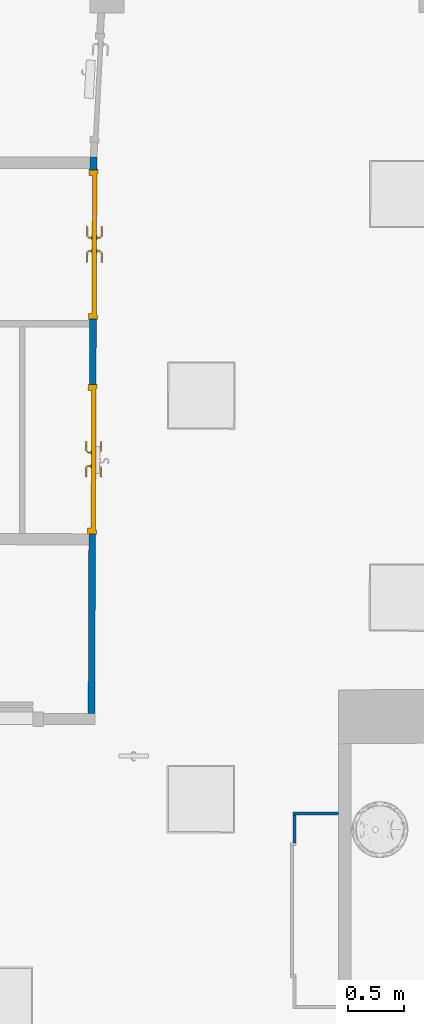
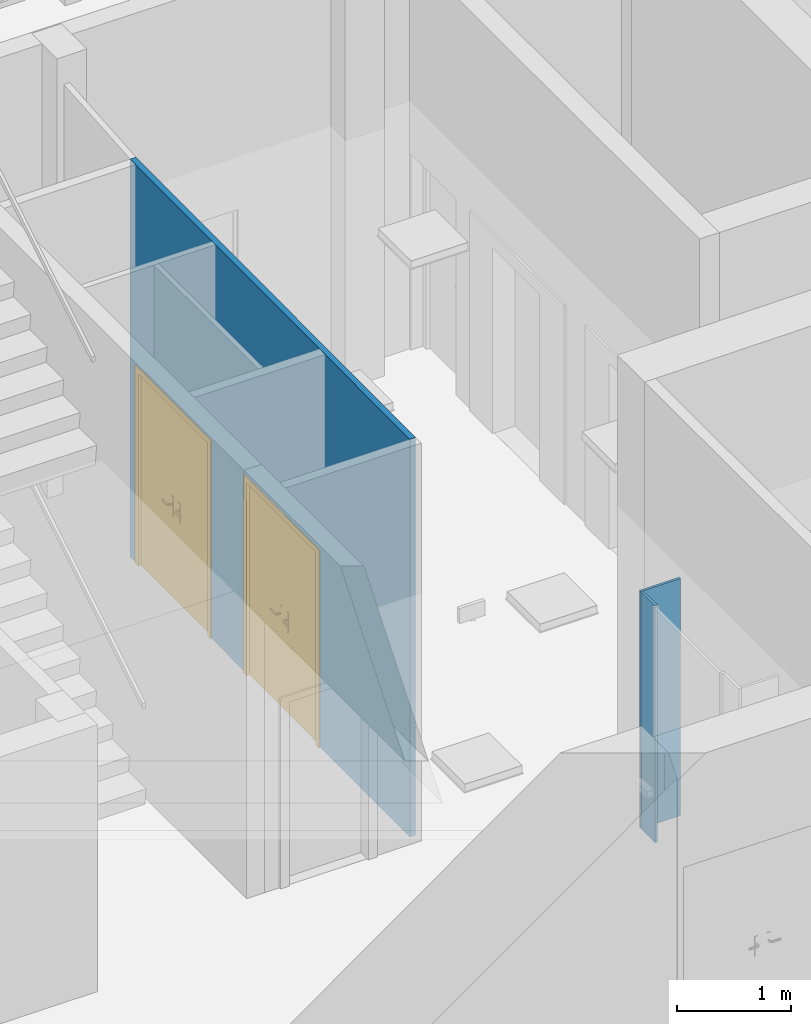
# One storey, part 29 of 128: 3 walls, 2 doors, 2 openings.
"""IFC2X3 building model written with IfcOpenShell, lengths in metres."""

from ifc_helpers import new_model, entity, si_unit, converted_unit, derived_unit, direction, frame, frame_2d, origin, place, context, subcontext, project, spatial, polyline, rectangle, outline, extrude, faceted_brep, source, transform, mapped, material, layer, layer_set, layer_usage, type_object, type_shapes, element, fill, save


model = new_model("IFC2X3")

# Units and contexts
model_context = context("Model", 3, precision=1e-05, world=origin(), true_north=direction((6.123031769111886e-17, 1.0)))
body_context = subcontext(model_context, "Body", "Model", "MODEL_VIEW")
ifc_project = project(units=[si_unit("LENGTHUNIT", "METRE"), si_unit("AREAUNIT", "SQUARE_METRE"), converted_unit("PLANEANGLEUNIT", "DEGREE", entity("IfcPlaneAngleMeasure", 0.017453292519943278), si_unit("PLANEANGLEUNIT", "RADIAN"), dimensions=[0, 0, 0, 0, 0, 0, 0]), derived_unit("THERMALTRANSMITTANCEUNIT", [(si_unit("MASSUNIT", "GRAM", prefix="KILO"), 1), (si_unit("THERMODYNAMICTEMPERATUREUNIT", "KELVIN"), -1), (si_unit("TIMEUNIT", "SECOND"), -3)])], contexts=[model_context])

# Site, building, storey
site_placement = place(None, origin())
site = spatial("IfcSite", under=ifc_project, at=site_placement, Name="Default", CompositionType="ELEMENT")
building_placement = place(site_placement, origin())
building = spatial("IfcBuilding", under=site, at=building_placement, CompositionType="ELEMENT")
storey_placement = place(building_placement, origin())
storey = spatial("IfcBuildingStorey", under=building, at=storey_placement, Name="00_RDC CAF", CompositionType="ELEMENT", Elevation=2.4982504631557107e-13)

# Wall, openings, doors
ifc_material_1 = material(Name="ARC - Cloison")
ifc_layer_1 = layer(ifc_material_1, 0.06)
ifc_layer_set_1 = layer_set([ifc_layer_1], Name="Mur de base:Cl_Platre_60mm")
ifc_layer_usage_1 = layer_usage(ifc_layer_set_1, "AXIS2", "POSITIVE", -0.03)
wall_type_1 = type_object("IfcWallType", Name="Mur de base:Cl_Platre_60mm", PredefinedType="STANDARD", material=ifc_layer_set_1)
wall_1_placement = place(storey_placement, frame((24.62582616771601, 130.1681249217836, 0.0), z_axis=(0.0, 0.0, 1.0), x_axis=(0.0038136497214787, 0.9999927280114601, 0.0)))
wall_1 = element("IfcWallStandardCase", 1, at=wall_1_placement, inside=storey, type_object=wall_type_1, material=ifc_layer_usage_1, Name="Mur de base:Cl_Platre_60mm", ObjectType="Mur de base:Cl_Platre_60mm", context=body_context, shape_type="SweptSolid", body=[
    extrude(outline(polyline([(0.00022882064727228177, -0.029999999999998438), (4.96021119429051, -0.030000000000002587), (4.95998237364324, 0.030000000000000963), (4.8599816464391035, 0.03000000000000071), (3.504971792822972, 0.030000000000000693), (3.444971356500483, 0.030000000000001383), (1.6004225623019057, 0.029999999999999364), (1.500422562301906, 0.030000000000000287), (0.0, 0.030000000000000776), (0.00022882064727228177, -0.029999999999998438)])), origin(), (0.0, 0.0, 1.0), 4.278),
])
opening_1_placement = place(wall_1_placement, frame((2.930422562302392, 0.029999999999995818, -0.009999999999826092)))
opening_1 = element("IfcOpeningElement", 2, at=opening_1_placement, cuts=wall_1, Name="P_Recouvrement_Double:P_Int_Double_Pleine_1260x2090mm:1", ObjectType="Opening", context=body_context, shape_type="SweptSolid", body=[
    extrude(rectangle(XDim=2.125000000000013, YDim=1.3300000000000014, at=frame_2d((1.0625000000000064, 0.6650000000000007), x_axis=(1.0, 0.0))), frame((0.0, 0.0, 0.0), z_axis=(0.0, -1.0, 0.0), x_axis=(0.0, 0.0, 1.0)), (0.0, 0.0, 1.0), 0.05999999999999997),
])
opening_2_placement = place(wall_1_placement, frame((4.847422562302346, 0.029999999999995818, 0.0)))
opening_2 = element("IfcOpeningElement", 3, at=opening_2_placement, cuts=wall_1, Name="P_Recouvrement_Double:P_Int_Double_Pleine_1260x2090mm:1", ObjectType="Opening", context=body_context, shape_type="SweptSolid", body=[
    extrude(rectangle(XDim=2.125000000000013, YDim=1.3300000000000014, at=frame_2d((1.0625000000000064, 0.6650000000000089), x_axis=(1.0, 0.0))), frame((0.0, 0.0, 0.0), z_axis=(0.0, -1.0, 0.0), x_axis=(0.0, 0.0, 1.0)), (0.0, 0.0, 1.0), 0.05999999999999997),
])
ifc_material_2 = material(Name="ARC - M.In - Blanc")
door_style = type_object("IfcDoorStyle", Name="P_Recouvrement_Double:P_Int_Double_Pleine_1260x2090mm", ConstructionType="NOTDEFINED", OperationType="NOTDEFINED", ParameterTakesPrecedence=False, Sizeable=False, material=ifc_material_2)
shared_shape = source(origin(), body_context, "Body", "Brep", [
    faceted_brep([(0.6029747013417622, 0.044999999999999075, 0.9922195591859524), (0.6070252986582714, 0.04499999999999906, 0.9922195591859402), (0.6110000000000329, 0.04499999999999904, 0.9929999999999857), (0.6110000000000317, 0.04499999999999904, 1.0069999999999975), (0.6070252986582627, 0.04499999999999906, 1.0077804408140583), (0.6029747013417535, 0.044999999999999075, 1.0077804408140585), (0.5989999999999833, 0.044999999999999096, 1.0069999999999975), (0.5989999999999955, 0.044999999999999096, 0.9930000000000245), (0.5989999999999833, 0.067485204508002, 1.0069999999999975), (0.5989999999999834, 0.06748520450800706, 0.9930000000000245), (0.6029747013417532, 0.06913157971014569, 1.0077804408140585), (0.6070252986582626, 0.07080939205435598, 1.0077804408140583), (0.5908389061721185, 0.08699578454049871, 1.0077804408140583), (0.5891610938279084, 0.08294518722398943, 1.0077804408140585), (0.6110000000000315, 0.07245576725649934, 1.0069999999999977), (0.611000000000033, 0.07245576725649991, 0.9929999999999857), (0.6070252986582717, 0.07080939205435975, 0.9922195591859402), (0.6029747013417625, 0.06913157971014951, 0.9922195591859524), (0.5891610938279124, 0.08294518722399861, 0.9922195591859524), (0.5908389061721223, 0.0869957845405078, 0.9922195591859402), (0.587514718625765, 0.07897048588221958, 1.0069999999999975), (0.5875147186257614, 0.07897048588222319, 0.9930000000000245), (0.5924852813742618, 0.09097048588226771, 1.0069999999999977), (0.5924852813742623, 0.0909704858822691, 0.9929999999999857), (0.5049542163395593, 0.08294518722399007, 1.0077804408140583), (0.5049542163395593, 0.08699578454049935, 1.007780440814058), (0.5049542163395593, 0.09097048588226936, 1.006999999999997), (0.5049542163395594, 0.09097048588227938, 0.9929999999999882), (0.5049542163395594, 0.08699578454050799, 0.99221955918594), (0.5049542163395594, 0.0829451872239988, 0.9922195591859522), (0.5049542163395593, 0.0789704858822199, 0.993000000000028), (0.5049542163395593, 0.07897048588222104, 1.0069999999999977), (0.5462344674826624, 0.07897048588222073, 1.0069999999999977), (0.5462344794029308, 0.07897048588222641, 0.9930000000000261), (0.547057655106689, 0.08497048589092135, 1.0078786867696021), (0.552554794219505, 0.09097048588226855, 1.0069999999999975), (0.5525547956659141, 0.09097048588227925, 0.9929999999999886), (0.5470576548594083, 0.08497048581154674, 0.9921213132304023)], [[[0, 1, 2, 3, 4, 5, 6, 7]], [[8, 9, 7, 6]], [[5, 10, 8, 6]], [[5, 4, 11, 12, 13, 10]], [[3, 14, 11, 4]], [[14, 3, 2, 15]], [[2, 1, 16, 15]], [[1, 0, 17, 18, 19, 16]], [[0, 7, 9, 17]], [[20, 21, 9, 8]], [[8, 10, 13, 20]], [[14, 22, 12, 11]], [[23, 22, 14, 15]], [[15, 16, 19, 23]], [[17, 9, 21, 18]], [[24, 25, 26, 27, 28, 29, 30, 31]], [[21, 20, 32, 31, 30, 33]], [[34, 24, 32]], [[25, 34, 35]], [[13, 32, 20]], [[24, 31, 32]], [[25, 35, 26]], [[35, 12, 22]], [[34, 12, 35]], [[34, 13, 12]], [[34, 32, 13]], [[24, 34, 25]], [[22, 23, 36, 27, 26, 35]], [[37, 28, 36]], [[36, 28, 27]], [[36, 23, 19]], [[18, 33, 37]], [[33, 18, 21]], [[30, 29, 33]], [[37, 29, 28]], [[37, 33, 29]], [[37, 36, 19]], [[18, 37, 19]]]),
    faceted_brep([(0.6029747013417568, -0.005000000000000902, 1.0077804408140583), (0.607025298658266, -0.0050000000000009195, 1.0077804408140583), (0.6110000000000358, -0.005000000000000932, 1.0069999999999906), (0.6110000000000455, -0.005000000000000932, 0.9929999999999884), (0.6070252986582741, -0.0050000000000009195, 0.9922195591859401), (0.6029747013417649, -0.005000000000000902, 0.9922195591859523), (0.5989999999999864, -0.005000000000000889, 0.9930000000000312), (0.5989999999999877, -0.005000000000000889, 1.006999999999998), (0.6070252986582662, -0.031004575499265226, 1.0077804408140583), (0.6110000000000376, -0.03265095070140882, 1.0069999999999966), (0.6029747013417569, -0.029326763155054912, 1.0077804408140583), (0.5892986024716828, -0.04300286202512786, 1.0077804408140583), (0.5909764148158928, -0.04705345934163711, 1.0077804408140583), (0.5989999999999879, -0.027680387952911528, 1.006999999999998), (0.5989999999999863, -0.027680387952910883, 0.9930000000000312), (0.6029747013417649, -0.029326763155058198, 0.9922195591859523), (0.607025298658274, -0.031004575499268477, 0.9922195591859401), (0.590976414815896, -0.04705345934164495, 0.9922195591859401), (0.5892986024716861, -0.043002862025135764, 0.9922195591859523), (0.6110000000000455, -0.03265095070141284, 0.9929999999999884), (0.5926227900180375, -0.05102816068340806, 1.0069999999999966), (0.5876522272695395, -0.03902816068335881, 1.006999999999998), (0.5876522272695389, -0.03902816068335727, 0.9930000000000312), (0.5926227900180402, -0.05102816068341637, 0.9929999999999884), (0.5049813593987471, -0.05102816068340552, 1.0069999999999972), (0.5049813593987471, -0.04705345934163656, 1.0077804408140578), (0.5049813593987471, -0.043002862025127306, 1.007780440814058), (0.5049813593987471, -0.03902816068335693, 1.0069999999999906), (0.5049813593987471, -0.03902816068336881, 0.9930000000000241), (0.5049813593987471, -0.043002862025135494, 0.992219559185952), (0.5049813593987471, -0.04705345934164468, 0.9922195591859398), (0.5049813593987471, -0.051028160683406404, 0.9929999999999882), (0.5471399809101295, -0.04502816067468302, 1.007878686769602), (0.552692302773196, -0.051028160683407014, 1.0069999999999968), (0.546316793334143, -0.03902816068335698, 1.0069999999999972), (0.5463167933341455, -0.039028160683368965, 0.9930000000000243), (0.5471399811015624, -0.045028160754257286, 0.9921213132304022), (0.5526923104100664, -0.05102816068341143, 0.9929999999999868)], [[[0, 1, 2, 3, 4, 5, 6, 7]], [[2, 1, 8, 9]], [[1, 0, 10, 11, 12, 8]], [[0, 7, 13, 10]], [[14, 13, 7, 6]], [[5, 15, 14, 6]], [[5, 4, 16, 17, 18, 15]], [[3, 19, 16, 4]], [[9, 19, 3, 2]], [[9, 8, 12, 20]], [[10, 13, 21, 11]], [[22, 21, 13, 14]], [[14, 15, 18, 22]], [[16, 19, 23, 17]], [[20, 23, 19, 9]], [[24, 25, 26, 27, 28, 29, 30, 31]], [[32, 25, 33]], [[33, 25, 24]], [[33, 20, 12]], [[11, 34, 32]], [[34, 11, 21]], [[27, 26, 34]], [[32, 26, 25]], [[32, 34, 26]], [[32, 33, 12]], [[11, 32, 12]], [[21, 22, 35, 28, 27, 34]], [[36, 29, 35]], [[30, 36, 37]], [[18, 35, 22]], [[29, 28, 35]], [[30, 37, 31]], [[37, 17, 23]], [[36, 17, 37]], [[36, 18, 17]], [[36, 35, 18]], [[29, 36, 30]], [[23, 20, 33, 24, 31, 37]]]),
    faceted_brep([(0.6250000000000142, 0.03999999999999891, 0.870000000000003), (0.6250000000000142, 0.03999999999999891, 1.0800000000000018), (0.6153527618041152, 0.03999999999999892, 1.0839960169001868), (0.6050000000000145, 0.03999999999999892, 1.0853589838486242), (0.5946472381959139, 0.039999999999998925, 1.083996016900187), (0.5850000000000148, 0.039999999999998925, 1.0800000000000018), (0.5850000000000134, 0.039999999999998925, 0.8700000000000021), (0.5946472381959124, 0.039999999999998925, 0.866003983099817), (0.6050000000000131, 0.03999999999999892, 0.8646410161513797), (0.6153527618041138, 0.03999999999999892, 0.8660039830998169), (0.6050000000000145, 0.04499999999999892, 1.0853589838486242), (0.6153527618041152, 0.04499999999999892, 1.0839960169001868), (0.6250000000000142, 0.044999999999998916, 1.0800000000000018), (0.6250000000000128, 0.044999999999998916, 0.8700000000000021), (0.6153527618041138, 0.04499999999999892, 0.8660039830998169), (0.6050000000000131, 0.04499999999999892, 0.8646410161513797), (0.5946472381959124, 0.04499999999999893, 0.866003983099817), (0.5850000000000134, 0.04499999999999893, 0.8700000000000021), (0.5850000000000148, 0.04499999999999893, 1.0800000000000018), (0.5946472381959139, 0.04499999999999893, 1.083996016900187)], [[[0, 1, 2, 3, 4, 5, 6, 7, 8, 9]], [[10, 11, 12, 13, 14, 15, 16, 17, 18, 19]], [[4, 19, 18, 5]], [[3, 10, 19, 4]], [[2, 11, 10, 3]], [[2, 1, 12, 11]], [[13, 12, 1, 0]], [[9, 14, 13, 0]], [[8, 15, 14, 9]], [[7, 16, 15, 8]], [[7, 6, 17, 16]], [[17, 6, 5, 18]]]),
    faceted_brep([(0.6250000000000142, -0.005000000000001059, 0.8700000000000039), (0.625000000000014, -0.005000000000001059, 1.0800000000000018), (0.615352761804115, -0.005000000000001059, 1.083996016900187), (0.6050000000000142, -0.005000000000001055, 1.0853589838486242), (0.5946472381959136, -0.0050000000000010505, 1.0839960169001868), (0.5850000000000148, -0.005000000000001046, 1.0800000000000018), (0.5850000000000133, -0.005000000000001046, 0.8700000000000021), (0.5946472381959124, -0.0050000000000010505, 0.866003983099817), (0.6050000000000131, -0.005000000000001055, 0.8646410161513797), (0.6153527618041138, -0.005000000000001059, 0.866003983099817), (0.625000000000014, 0.0, 1.0800000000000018), (0.6250000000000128, 0.0, 0.8700000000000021), (0.6153527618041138, 0.0, 0.866003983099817), (0.6050000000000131, 0.0, 0.8646410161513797), (0.5946472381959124, 0.0, 0.866003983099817), (0.5850000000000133, 0.0, 0.8700000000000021), (0.5850000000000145, 0.0, 1.0800000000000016), (0.5946472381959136, 0.0, 1.0839960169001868), (0.6050000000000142, 0.0, 1.0853589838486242), (0.615352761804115, 0.0, 1.083996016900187)], [[[0, 1, 2, 3, 4, 5, 6, 7, 8, 9]], [[10, 11, 12, 13, 14, 15, 16, 17, 18, 19]], [[9, 12, 11, 0]], [[8, 13, 12, 9]], [[7, 14, 13, 8]], [[7, 6, 15, 14]], [[15, 6, 5, 16]], [[4, 17, 16, 5]], [[3, 18, 17, 4]], [[2, 19, 18, 3]], [[2, 1, 10, 19]], [[11, 10, 1, 0]]]),
    faceted_brep([(0.6650000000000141, 0.040000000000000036, 2.09), (0.6650000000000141, 0.040000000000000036, 0.0), (0.03500000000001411, 0.040000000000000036, 0.0), (0.03500000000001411, 0.040000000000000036, 2.09), (0.6650000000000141, 0.0, 2.09), (0.03500000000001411, 0.0, 2.09), (0.03500000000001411, 0.0, 0.0), (0.6650000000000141, 0.0, 0.0)], [[[0, 1, 2, 3]], [[4, 5, 6, 7]], [[3, 5, 4, 0]], [[2, 6, 5, 3]], [[1, 7, 6, 2]], [[0, 4, 7, 1]]]),
    faceted_brep([(0.7229747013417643, 0.04499999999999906, 1.0077804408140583), (0.7189999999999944, 0.04499999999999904, 1.0069999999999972), (0.7189999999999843, 0.04499999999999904, 0.9929999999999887), (0.7229747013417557, 0.04499999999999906, 0.9922195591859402), (0.7270252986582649, 0.044999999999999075, 0.9922195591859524), (0.7310000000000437, 0.044999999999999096, 0.9930000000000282), (0.7310000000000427, 0.044999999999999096, 1.006999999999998), (0.7270252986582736, 0.044999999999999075, 1.0077804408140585), (0.7310000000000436, 0.06748520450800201, 0.9930000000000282), (0.7310000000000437, 0.06748520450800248, 1.006999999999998), (0.7270252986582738, 0.06913157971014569, 1.0077804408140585), (0.7408389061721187, 0.08294518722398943, 1.0077804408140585), (0.7391610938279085, 0.08699578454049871, 1.0077804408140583), (0.7229747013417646, 0.07080939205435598, 1.0077804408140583), (0.7189999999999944, 0.07245576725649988, 1.0069999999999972), (0.7189999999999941, 0.07245576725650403, 0.9929999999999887), (0.7229747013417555, 0.07080939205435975, 0.9922195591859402), (0.7391610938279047, 0.0869957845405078, 0.9922195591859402), (0.7408389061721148, 0.08294518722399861, 0.9922195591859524), (0.7270252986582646, 0.06913157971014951, 0.9922195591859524), (0.7424852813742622, 0.07897048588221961, 0.9930000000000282), (0.7424852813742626, 0.0789704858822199, 1.006999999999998), (0.7375147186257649, 0.09097048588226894, 1.0069999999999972), (0.7375147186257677, 0.090970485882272, 0.9929999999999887), (0.8250457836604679, 0.07897048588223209, 0.9930000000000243), (0.8250457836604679, 0.0829451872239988, 0.9922195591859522), (0.8250457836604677, 0.08699578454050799, 0.99221955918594), (0.8250457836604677, 0.0909704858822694, 0.9929999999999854), (0.8250457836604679, 0.09097048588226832, 1.0069999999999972), (0.8250457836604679, 0.08699578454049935, 1.007780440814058), (0.8250457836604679, 0.08294518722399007, 1.0077804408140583), (0.8250457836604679, 0.07897048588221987, 1.0069999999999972), (0.783765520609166, 0.07897048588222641, 0.9930000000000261), (0.7837655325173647, 0.07897048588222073, 1.0069999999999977), (0.782942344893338, 0.08497048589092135, 1.0078786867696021), (0.7774452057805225, 0.09097048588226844, 1.0069999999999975), (0.777445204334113, 0.09097048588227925, 0.9929999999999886), (0.7829423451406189, 0.08497048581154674, 0.9921213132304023)], [[[0, 1, 2, 3, 4, 5, 6, 7]], [[6, 5, 8, 9]], [[9, 10, 7, 6]], [[10, 11, 12, 13, 0, 7]], [[13, 14, 1, 0]], [[2, 1, 14, 15]], [[15, 16, 3, 2]], [[16, 17, 18, 19, 4, 3]], [[19, 8, 5, 4]], [[9, 8, 20, 21]], [[21, 11, 10, 9]], [[12, 22, 14, 13]], [[15, 14, 22, 23]], [[23, 17, 16, 15]], [[18, 20, 8, 19]], [[24, 25, 26, 27, 28, 29, 30, 31]], [[21, 20, 32, 24, 31, 33]], [[33, 30, 34]], [[35, 34, 29]], [[21, 33, 11]], [[33, 31, 30]], [[28, 35, 29]], [[22, 12, 35]], [[35, 12, 34]], [[12, 11, 34]], [[11, 33, 34]], [[29, 34, 30]], [[22, 35, 28, 27, 36, 23]], [[36, 26, 37]], [[27, 26, 36]], [[17, 23, 36]], [[37, 32, 18]], [[20, 18, 32]], [[32, 25, 24]], [[26, 25, 37]], [[25, 32, 37]], [[17, 36, 37]], [[17, 37, 18]]]),
    faceted_brep([(0.7229747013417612, -0.0050000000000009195, 1.0077804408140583), (0.7270252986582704, -0.005000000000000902, 1.0077804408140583), (0.7310000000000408, -0.005000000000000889, 1.006999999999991), (0.7310000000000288, -0.005000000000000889, 0.9930000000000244), (0.7270252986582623, -0.005000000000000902, 0.9922195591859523), (0.7229747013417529, -0.0050000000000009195, 0.9922195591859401), (0.7189999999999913, -0.005000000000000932, 0.9929999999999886), (0.7189999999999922, -0.005000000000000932, 1.0069999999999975), (0.7189999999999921, -0.03265095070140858, 1.0069999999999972), (0.7229747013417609, -0.031004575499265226, 1.0077804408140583), (0.7390235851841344, -0.04705345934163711, 1.0077804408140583), (0.7407013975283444, -0.04300286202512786, 1.0077804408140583), (0.7270252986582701, -0.029326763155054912, 1.0077804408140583), (0.7310000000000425, -0.02768038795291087, 1.0069999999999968), (0.7310000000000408, -0.027680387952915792, 0.9930000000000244), (0.7270252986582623, -0.029326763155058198, 0.9922195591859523), (0.7407013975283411, -0.043002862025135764, 0.9922195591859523), (0.739023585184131, -0.04705345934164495, 0.9922195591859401), (0.722974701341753, -0.031004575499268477, 0.9922195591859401), (0.7189999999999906, -0.03265095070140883, 0.9929999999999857), (0.7373772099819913, -0.051028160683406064, 1.0069999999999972), (0.7423477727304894, -0.03902816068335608, 1.0069999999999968), (0.7423477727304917, -0.03902816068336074, 0.9930000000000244), (0.7373772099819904, -0.05102816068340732, 0.9929999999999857), (0.82501864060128, -0.05102816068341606, 0.9929999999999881), (0.82501864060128, -0.04705345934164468, 0.9922195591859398), (0.82501864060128, -0.043002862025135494, 0.992219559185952), (0.8250186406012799, -0.03902816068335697, 0.9930000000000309), (0.82501864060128, -0.039028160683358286, 1.0069999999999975), (0.82501864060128, -0.043002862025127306, 1.007780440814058), (0.82501864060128, -0.04705345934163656, 1.0077804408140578), (0.82501864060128, -0.05102816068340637, 1.0069999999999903), (0.7773076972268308, -0.051028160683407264, 1.0069999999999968), (0.7828600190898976, -0.04502816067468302, 1.007878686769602), (0.7836832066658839, -0.039028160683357, 1.0069999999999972), (0.7836832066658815, -0.039028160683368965, 0.9930000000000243), (0.7828600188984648, -0.045028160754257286, 0.9921213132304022), (0.7773077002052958, -0.051028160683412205, 0.992999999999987)], [[[0, 1, 2, 3, 4, 5, 6, 7]], [[8, 9, 0, 7]], [[9, 10, 11, 12, 1, 0]], [[12, 13, 2, 1]], [[3, 2, 13, 14]], [[14, 15, 4, 3]], [[15, 16, 17, 18, 5, 4]], [[18, 19, 6, 5]], [[7, 6, 19, 8]], [[20, 10, 9, 8]], [[11, 21, 13, 12]], [[14, 13, 21, 22]], [[22, 16, 15, 14]], [[17, 23, 19, 18]], [[8, 19, 23, 20]], [[24, 25, 26, 27, 28, 29, 30, 31]], [[32, 30, 33]], [[31, 30, 32]], [[10, 20, 32]], [[33, 34, 11]], [[21, 11, 34]], [[34, 29, 28]], [[30, 29, 33]], [[29, 34, 33]], [[10, 32, 33]], [[10, 33, 11]], [[22, 21, 34, 28, 27, 35]], [[35, 26, 36]], [[37, 36, 25]], [[22, 35, 16]], [[35, 27, 26]], [[24, 37, 25]], [[23, 17, 37]], [[37, 17, 36]], [[17, 16, 36]], [[16, 35, 36]], [[25, 36, 26]], [[20, 23, 37, 24, 31, 32]]]),
    faceted_brep([(0.7353527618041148, 0.039999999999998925, 0.866003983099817), (0.7450000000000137, 0.039999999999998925, 0.8700000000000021), (0.7450000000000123, 0.039999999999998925, 1.0800000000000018), (0.7353527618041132, 0.039999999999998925, 1.083996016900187), (0.7250000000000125, 0.03999999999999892, 1.0853589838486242), (0.7146472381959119, 0.03999999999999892, 1.0839960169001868), (0.7050000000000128, 0.03999999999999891, 1.0800000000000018), (0.7050000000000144, 0.03999999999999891, 0.8700000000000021), (0.7146472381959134, 0.03999999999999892, 0.8660039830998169), (0.725000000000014, 0.03999999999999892, 0.8646410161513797), (0.7353527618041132, 0.04499999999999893, 1.083996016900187), (0.7450000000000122, 0.04499999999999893, 1.0800000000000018), (0.7450000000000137, 0.04499999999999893, 0.8700000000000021), (0.7353527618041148, 0.04499999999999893, 0.866003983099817), (0.725000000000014, 0.04499999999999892, 0.8646410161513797), (0.7146472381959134, 0.04499999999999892, 0.8660039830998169), (0.7050000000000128, 0.044999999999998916, 0.870000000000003), (0.7050000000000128, 0.044999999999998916, 1.0800000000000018), (0.7146472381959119, 0.04499999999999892, 1.0839960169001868), (0.7250000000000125, 0.04499999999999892, 1.0853589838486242)], [[[0, 1, 2, 3, 4, 5, 6, 7, 8, 9]], [[10, 11, 12, 13, 14, 15, 16, 17, 18, 19]], [[11, 10, 3, 2]], [[3, 10, 19, 4]], [[19, 18, 5, 4]], [[18, 17, 6, 5]], [[7, 6, 17, 16]], [[16, 15, 8, 7]], [[8, 15, 14, 9]], [[14, 13, 0, 9]], [[13, 12, 1, 0]], [[2, 1, 12, 11]]]),
    faceted_brep([(0.7353527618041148, -0.0050000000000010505, 0.866003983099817), (0.7450000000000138, -0.005000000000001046, 0.8700000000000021), (0.7450000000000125, -0.005000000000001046, 1.0800000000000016), (0.7353527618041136, -0.0050000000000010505, 1.0839960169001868), (0.725000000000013, -0.005000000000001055, 1.0853589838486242), (0.7146472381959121, -0.005000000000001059, 1.083996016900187), (0.7050000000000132, -0.005000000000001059, 1.0800000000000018), (0.7050000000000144, -0.005000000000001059, 0.8700000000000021), (0.7146472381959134, -0.005000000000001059, 0.866003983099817), (0.725000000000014, -0.005000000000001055, 0.8646410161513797), (0.7353527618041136, 0.0, 1.0839960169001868), (0.7450000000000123, 0.0, 1.0800000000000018), (0.7450000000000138, 0.0, 0.8700000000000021), (0.7353527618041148, 0.0, 0.866003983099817), (0.725000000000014, 0.0, 0.8646410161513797), (0.7146472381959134, 0.0, 0.866003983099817), (0.7050000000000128, 0.0, 0.8700000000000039), (0.7050000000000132, 0.0, 1.0800000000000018), (0.7146472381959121, 0.0, 1.083996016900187), (0.725000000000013, 0.0, 1.0853589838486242)], [[[0, 1, 2, 3, 4, 5, 6, 7, 8, 9]], [[10, 11, 12, 13, 14, 15, 16, 17, 18, 19]], [[16, 15, 8, 7]], [[8, 15, 14, 9]], [[14, 13, 0, 9]], [[13, 12, 1, 0]], [[2, 1, 12, 11]], [[11, 10, 3, 2]], [[3, 10, 19, 4]], [[19, 18, 5, 4]], [[18, 17, 6, 5]], [[7, 6, 17, 16]]]),
    faceted_brep([(0.665000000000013, 0.040000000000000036, 2.09), (1.2950000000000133, 0.040000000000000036, 2.09), (1.2950000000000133, 0.040000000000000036, 0.0), (0.665000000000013, 0.040000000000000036, 0.0), (0.665000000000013, 0.0, 2.09), (0.665000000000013, 0.0, 0.0), (1.2950000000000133, 0.0, 0.0), (1.2950000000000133, 0.0, 2.09)], [[[0, 1, 2, 3]], [[4, 5, 6, 7]], [[1, 0, 4, 7]], [[2, 1, 7, 6]], [[3, 2, 6, 5]], [[0, 3, 5, 4]]]),
    faceted_brep([(0.0, 0.060000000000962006, 0.0), (-0.004999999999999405, 0.060000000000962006, 0.0), (-0.004999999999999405, 0.07000000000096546, 0.0), (0.050000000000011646, 0.07000000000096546, 0.0), (0.050000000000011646, 0.04000000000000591, 0.0), (0.03500000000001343, 0.04000000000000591, 0.0), (0.03500000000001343, -0.009999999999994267, 0.0), (-0.004999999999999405, -0.009999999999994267, 0.0), (-0.004999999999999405, 0.0, 0.0), (0.0, 0.0, 0.0), (0.0, 0.060000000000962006, 2.125000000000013), (1.3300000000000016, 0.060000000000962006, 2.125000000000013), (1.3300000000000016, 0.060000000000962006, 0.0), (1.335000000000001, 0.060000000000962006, 0.0), (1.335000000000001, 0.060000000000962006, 2.1300000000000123), (-0.00499999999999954, 0.060000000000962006, 2.1300000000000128), (-0.00499999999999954, 0.07000000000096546, 2.1300000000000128), (1.335000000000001, 0.07000000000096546, 2.1300000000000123), (1.335000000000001, 0.07000000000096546, 0.0), (1.27999999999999, 0.07000000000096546, 0.0), (1.27999999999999, 0.07000000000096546, 2.075000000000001), (0.050000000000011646, 0.07000000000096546, 2.075000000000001), (0.050000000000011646, 0.04000000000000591, 2.075000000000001), (1.27999999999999, 0.04000000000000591, 2.075000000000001), (1.27999999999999, 0.04000000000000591, 0.0), (1.2949999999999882, 0.04000000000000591, 0.0), (1.2949999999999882, 0.04000000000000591, 2.0899999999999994), (0.03500000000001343, 0.04000000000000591, 2.0899999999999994), (0.03500000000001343, -0.009999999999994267, 2.0899999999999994), (1.2949999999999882, -0.009999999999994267, 2.0899999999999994), (1.2949999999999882, -0.009999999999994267, 0.0), (1.335000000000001, -0.009999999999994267, 0.0), (1.335000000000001, -0.009999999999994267, 2.1300000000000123), (-0.00499999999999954, -0.009999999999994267, 2.1300000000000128), (-0.00499999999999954, 0.0, 2.1300000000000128), (1.335000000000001, 0.0, 2.1300000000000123), (1.335000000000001, 0.0, 0.0), (1.3300000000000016, 0.0, 0.0), (1.3300000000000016, 0.0, 2.125000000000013), (0.0, 0.0, 2.125000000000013)], [[[0, 1, 2, 3, 4, 5, 6, 7, 8, 9]], [[1, 0, 10, 11, 12, 13, 14, 15]], [[2, 1, 15, 16]], [[3, 2, 16, 17, 18, 19, 20, 21]], [[4, 3, 21, 22]], [[5, 4, 22, 23, 24, 25, 26, 27]], [[6, 5, 27, 28]], [[7, 6, 28, 29, 30, 31, 32, 33]], [[8, 7, 33, 34]], [[9, 8, 34, 35, 36, 37, 38, 39]], [[0, 9, 39, 10]], [[11, 38, 37, 12]], [[12, 37, 36, 31, 30, 25, 24, 19, 18, 13]], [[17, 14, 13, 18]], [[23, 20, 19, 24]], [[29, 26, 25, 30]], [[35, 32, 31, 36]], [[16, 15, 14, 17]], [[22, 21, 20, 23]], [[28, 27, 26, 29]], [[34, 33, 32, 35]], [[10, 39, 38, 11]]]),
])
type_shapes(door_style, [shared_shape])
door_1_placement = place(opening_1_placement, frame((-1.3300000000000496, -0.05999999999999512, 0.0)))
door_1 = element("IfcDoor", 4, at=door_1_placement, inside=storey, type_object=door_style, material=ifc_material_2, Name="P_Recouvrement_Double:P_Int_Double_Pleine_1260x2090mm", ObjectType="P_Recouvrement_Double:P_Int_Double_Pleine_1260x2090mm", OverallHeight=2.125000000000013, OverallWidth=1.3300000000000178, context=body_context, shape_type="MappedRepresentation", body=[
    mapped(shared_shape, transform((0.0, 0.0, 0.0), scale=1.0)),
])
fill(opening_1, door_1)
door_2_placement = place(opening_2_placement, frame((-1.3300000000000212, -0.05999999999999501, 0.0)))
door_2 = element("IfcDoor", 5, at=door_2_placement, inside=storey, type_object=door_style, material=ifc_material_2, Name="P_Recouvrement_Double:P_Int_Double_Pleine_1260x2090mm", ObjectType="P_Recouvrement_Double:P_Int_Double_Pleine_1260x2090mm", OverallHeight=2.125000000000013, OverallWidth=1.3300000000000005, context=body_context, shape_type="MappedRepresentation", body=[
    mapped(shared_shape, transform((0.0, 0.0, 0.0), scale=1.0)),
])
fill(opening_2, door_2)

# Walls
ifc_layer_2 = layer(ifc_material_1, 0.025)
ifc_layer_set_2 = layer_set([ifc_layer_2], Name="Mur de base:Cl_Bois_25mm")
ifc_layer_usage_2 = layer_usage(ifc_layer_set_2, "AXIS2", "POSITIVE", -0.0125)
wall_type_2 = type_object("IfcWallType", Name="Mur de base:Cl_Bois_25mm", PredefinedType="STANDARD", material=ifc_layer_set_2)
wall_2_placement = place(storey_placement, frame((26.828375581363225, 129.27477022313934, 0.0), z_axis=(0.0, 0.0, 1.0), x_axis=(-1.0, 0.0, 0.0)))
element("IfcWallStandardCase", 6, at=wall_2_placement, inside=storey, type_object=wall_type_2, material=ifc_layer_usage_2, Name="Mur de base:Cl_Bois_25mm", ObjectType="Mur de base:Cl_Bois_25mm", context=body_context, shape_type="SweptSolid", body=[
    extrude(rectangle(XDim=0.4049999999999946, YDim=0.02500000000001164, at=frame_2d((0.2024999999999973, 0.0), x_axis=(-1.0, 0.0))), origin(), (0.0, 0.0, 1.0), 2.55),
])
ifc_layer_usage_3 = layer_usage(ifc_layer_set_2, "AXIS2", "POSITIVE", -0.0125)
wall_3_placement = place(storey_placement, frame((26.43587558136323, 129.26227022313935, 0.0), z_axis=(0.0, 0.0, 1.0), x_axis=(0.0, -1.0, 0.0)))
element("IfcWallStandardCase", 7, at=wall_3_placement, inside=storey, type_object=wall_type_2, material=ifc_layer_usage_3, Name="Mur de base:Cl_Bois_25mm", ObjectType="Mur de base:Cl_Bois_25mm", context=body_context, shape_type="SweptSolid", body=[
    extrude(rectangle(XDim=0.2500000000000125, YDim=0.025000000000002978, at=frame_2d((0.12500000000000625, 3.148523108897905e-16), x_axis=(-1.0, 0.0))), origin(), (0.0, 0.0, 1.0), 2.55),
])

save(model, "model.ifc")
